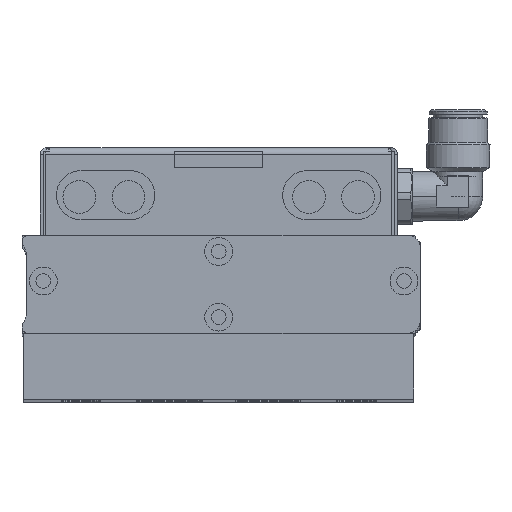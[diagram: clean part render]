
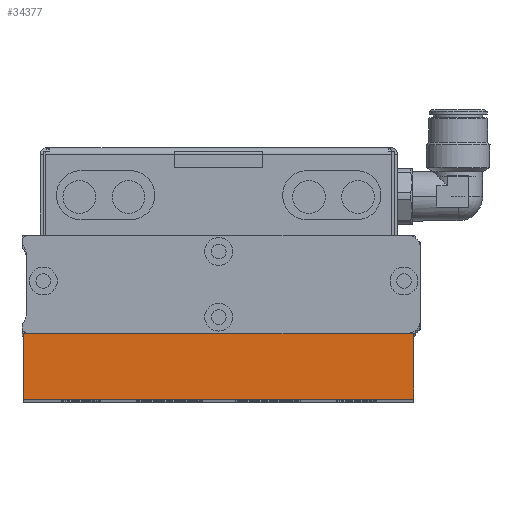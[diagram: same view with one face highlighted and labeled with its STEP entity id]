
A CAD part, top view. The second image highlights one B-rep face of the part: STEP entity #34377.
In plain terms, the highlighted planar face has unit normal (0, 0, 1).
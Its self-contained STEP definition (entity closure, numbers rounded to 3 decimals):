
#475 = AXIS2_PLACEMENT_3D ( 'NONE', #19816, #8811, #6412 ) ;
#2701 = CARTESIAN_POINT ( 'NONE',  ( 36.4, -51.3, 297. ) ) ;
#3095 = EDGE_LOOP ( 'NONE', ( #15420, #8289, #5046, #15843 ) ) ;
#4064 = LINE ( 'NONE', #29770, #17925 ) ;
#5046 = ORIENTED_EDGE ( 'NONE', *, *, #7707, .F. ) ;
#5972 = EDGE_CURVE ( 'NONE', #25815, #21645, #4064, .T. ) ;
#6412 = DIRECTION ( 'NONE',  ( 0., 1., 0. ) ) ;
#7206 = VECTOR ( 'NONE', #10428, 1000. ) ;
#7707 = EDGE_CURVE ( 'NONE', #25815, #23767, #16412, .T. ) ;
#8289 = ORIENTED_EDGE ( 'NONE', *, *, #18475, .F. ) ;
#8811 = DIRECTION ( 'NONE',  ( 0., 0., -1. ) ) ;
#10428 = DIRECTION ( 'NONE',  ( 0., -1., 0. ) ) ;
#10942 = FACE_OUTER_BOUND ( 'NONE', #3095, .T. ) ;
#12108 = CARTESIAN_POINT ( 'NONE',  ( 36.4, -51.3, 297. ) ) ;
#15282 = CARTESIAN_POINT ( 'NONE',  ( 36.4, -71.3, 297. ) ) ;
#15420 = ORIENTED_EDGE ( 'NONE', *, *, #27177, .T. ) ;
#15843 = ORIENTED_EDGE ( 'NONE', *, *, #5972, .T. ) ;
#16412 = LINE ( 'NONE', #34524, #18942 ) ;
#17925 = VECTOR ( 'NONE', #24338, 1000. ) ;
#18331 = CARTESIAN_POINT ( 'NONE',  ( -82.6, -71.3, 297. ) ) ;
#18475 = EDGE_CURVE ( 'NONE', #23767, #27082, #32449, .T. ) ;
#18942 = VECTOR ( 'NONE', #34282, 1000. ) ;
#19816 = CARTESIAN_POINT ( 'NONE',  ( -82.6, -51.3, 297. ) ) ;
#21645 = VERTEX_POINT ( 'NONE', #26795 ) ;
#23767 = VERTEX_POINT ( 'NONE', #12108 ) ;
#23834 = DIRECTION ( 'NONE',  ( 1., 0., 0. ) ) ;
#24338 = DIRECTION ( 'NONE',  ( 0., -1., 0. ) ) ;
#25815 = VERTEX_POINT ( 'NONE', #32463 ) ;
#26795 = CARTESIAN_POINT ( 'NONE',  ( -82.6, -71.3, 297. ) ) ;
#27082 = VERTEX_POINT ( 'NONE', #15282 ) ;
#27177 = EDGE_CURVE ( 'NONE', #21645, #27082, #28222, .T. ) ;
#28222 = LINE ( 'NONE', #18331, #28657 ) ;
#28657 = VECTOR ( 'NONE', #23834, 1000. ) ;
#29770 = CARTESIAN_POINT ( 'NONE',  ( -82.6, -51.3, 297. ) ) ;
#30188 = PLANE ( 'NONE',  #475 ) ;
#32449 = LINE ( 'NONE', #2701, #7206 ) ;
#32463 = CARTESIAN_POINT ( 'NONE',  ( -82.6, -51.3, 297. ) ) ;
#34282 = DIRECTION ( 'NONE',  ( 1., 0., 0. ) ) ;
#34377 = ADVANCED_FACE ( 'NONE', ( #10942 ), #30188, .F. ) ;
#34524 = CARTESIAN_POINT ( 'NONE',  ( -82.6, -51.3, 297. ) ) ;
